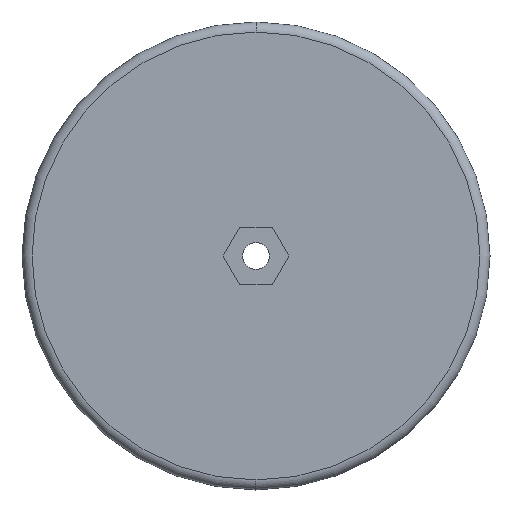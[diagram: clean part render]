
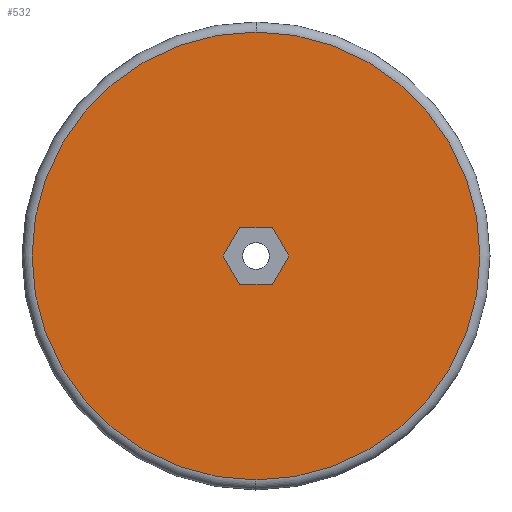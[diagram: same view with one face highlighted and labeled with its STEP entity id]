
A CAD part, left-side view. The second image highlights one B-rep face of the part: STEP entity #532.
In plain terms, the highlighted planar face has unit normal (-1, 0, 0).
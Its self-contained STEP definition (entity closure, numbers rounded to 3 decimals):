
#4 = VERTEX_POINT ( 'NONE', #688 ) ;
#28 = VERTEX_POINT ( 'NONE', #1188 ) ;
#31 = EDGE_CURVE ( 'NONE', #281, #771, #1037, .T. ) ;
#33 = CARTESIAN_POINT ( 'NONE',  ( 0., -4.907, -8.5 ) ) ;
#80 = CARTESIAN_POINT ( 'NONE',  ( 0., 0., 0. ) ) ;
#95 = CARTESIAN_POINT ( 'NONE',  ( 0., 0., 67. ) ) ;
#140 = VERTEX_POINT ( 'NONE', #1105 ) ;
#145 = VECTOR ( 'NONE', #146, 1000. ) ;
#146 = DIRECTION ( 'NONE',  ( 0., -1., 0. ) ) ;
#205 = LINE ( 'NONE', #908, #1351 ) ;
#254 = ORIENTED_EDGE ( 'NONE', *, *, #774, .T. ) ;
#266 = FACE_BOUND ( 'NONE', #1222, .T. ) ;
#281 = VERTEX_POINT ( 'NONE', #799 ) ;
#290 = VERTEX_POINT ( 'NONE', #356 ) ;
#297 = ORIENTED_EDGE ( 'NONE', *, *, #1068, .T. ) ;
#299 = EDGE_CURVE ( 'NONE', #1001, #4, #796, .T. ) ;
#319 = DIRECTION ( 'NONE',  ( 0., 0., 1. ) ) ;
#343 = DIRECTION ( 'NONE',  ( -1., 0., 0. ) ) ;
#355 = AXIS2_PLACEMENT_3D ( 'NONE', #1088, #343, #722 ) ;
#356 = CARTESIAN_POINT ( 'NONE',  ( 0., -9.815, 0. ) ) ;
#371 = EDGE_CURVE ( 'NONE', #28, #1148, #1250, .T. ) ;
#429 = VECTOR ( 'NONE', #605, 1000. ) ;
#463 = PLANE ( 'NONE',  #999 ) ;
#465 = ORIENTED_EDGE ( 'NONE', *, *, #299, .T. ) ;
#498 = CARTESIAN_POINT ( 'NONE',  ( 0., -9.815, 0. ) ) ;
#532 = ADVANCED_FACE ( 'NONE', ( #778, #266 ), #463, .T. ) ;
#540 = LINE ( 'NONE', #498, #794 ) ;
#542 = EDGE_LOOP ( 'NONE', ( #297, #1249 ) ) ;
#580 = CARTESIAN_POINT ( 'NONE',  ( 0., 4.907, 8.5 ) ) ;
#600 = DIRECTION ( 'NONE',  ( -1., 0., 0. ) ) ;
#603 = ORIENTED_EDGE ( 'NONE', *, *, #371, .T. ) ;
#605 = DIRECTION ( 'NONE',  ( 0., 0.5, 0.866 ) ) ;
#688 = CARTESIAN_POINT ( 'NONE',  ( 0., 4.907, -8.5 ) ) ;
#721 = CARTESIAN_POINT ( 'NONE',  ( 0., 0., 0. ) ) ;
#722 = DIRECTION ( 'NONE',  ( 0., 0., 1. ) ) ;
#735 = DIRECTION ( 'NONE',  ( -1., 0., 0. ) ) ;
#762 = ORIENTED_EDGE ( 'NONE', *, *, #976, .T. ) ;
#771 = VERTEX_POINT ( 'NONE', #95 ) ;
#774 = EDGE_CURVE ( 'NONE', #1148, #290, #540, .T. ) ;
#778 = FACE_OUTER_BOUND ( 'NONE', #542, .T. ) ;
#794 = VECTOR ( 'NONE', #1248, 1000. ) ;
#796 = LINE ( 'NONE', #1028, #1053 ) ;
#799 = CARTESIAN_POINT ( 'NONE',  ( 0., 0., -67. ) ) ;
#815 = EDGE_CURVE ( 'NONE', #290, #1001, #205, .T. ) ;
#819 = DIRECTION ( 'NONE',  ( 0., 0.5, -0.866 ) ) ;
#820 = DIRECTION ( 'NONE',  ( 0., 0., 1. ) ) ;
#900 = CARTESIAN_POINT ( 'NONE',  ( 0., -4.907, 8.5 ) ) ;
#908 = CARTESIAN_POINT ( 'NONE',  ( 0., -4.907, -8.5 ) ) ;
#913 = CARTESIAN_POINT ( 'NONE',  ( 0., -4.907, 8.5 ) ) ;
#919 = VECTOR ( 'NONE', #966, 1000. ) ;
#954 = EDGE_CURVE ( 'NONE', #4, #140, #1247, .T. ) ;
#966 = DIRECTION ( 'NONE',  ( 0., -0.5, 0.866 ) ) ;
#976 = EDGE_CURVE ( 'NONE', #140, #28, #1213, .T. ) ;
#977 = AXIS2_PLACEMENT_3D ( 'NONE', #721, #600, #820 ) ;
#999 = AXIS2_PLACEMENT_3D ( 'NONE', #80, #735, #319 ) ;
#1001 = VERTEX_POINT ( 'NONE', #33 ) ;
#1028 = CARTESIAN_POINT ( 'NONE',  ( 0., 4.907, -8.5 ) ) ;
#1037 = CIRCLE ( 'NONE', #977, 67. ) ;
#1040 = ORIENTED_EDGE ( 'NONE', *, *, #954, .T. ) ;
#1053 = VECTOR ( 'NONE', #1125, 1000. ) ;
#1068 = EDGE_CURVE ( 'NONE', #771, #281, #1100, .T. ) ;
#1088 = CARTESIAN_POINT ( 'NONE',  ( 0., 0., 0. ) ) ;
#1100 = CIRCLE ( 'NONE', #355, 67. ) ;
#1105 = CARTESIAN_POINT ( 'NONE',  ( 0., 9.815, 0. ) ) ;
#1125 = DIRECTION ( 'NONE',  ( 0., 1., 0. ) ) ;
#1148 = VERTEX_POINT ( 'NONE', #900 ) ;
#1167 = CARTESIAN_POINT ( 'NONE',  ( 0., 9.815, 0. ) ) ;
#1188 = CARTESIAN_POINT ( 'NONE',  ( 0., 4.907, 8.5 ) ) ;
#1213 = LINE ( 'NONE', #580, #919 ) ;
#1222 = EDGE_LOOP ( 'NONE', ( #465, #1040, #762, #603, #254, #1403 ) ) ;
#1247 = LINE ( 'NONE', #1167, #429 ) ;
#1248 = DIRECTION ( 'NONE',  ( 0., -0.5, -0.866 ) ) ;
#1249 = ORIENTED_EDGE ( 'NONE', *, *, #31, .T. ) ;
#1250 = LINE ( 'NONE', #913, #145 ) ;
#1351 = VECTOR ( 'NONE', #819, 1000. ) ;
#1403 = ORIENTED_EDGE ( 'NONE', *, *, #815, .T. ) ;
